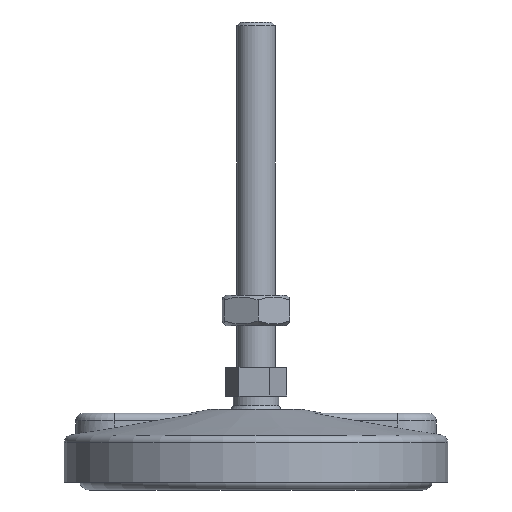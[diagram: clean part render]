
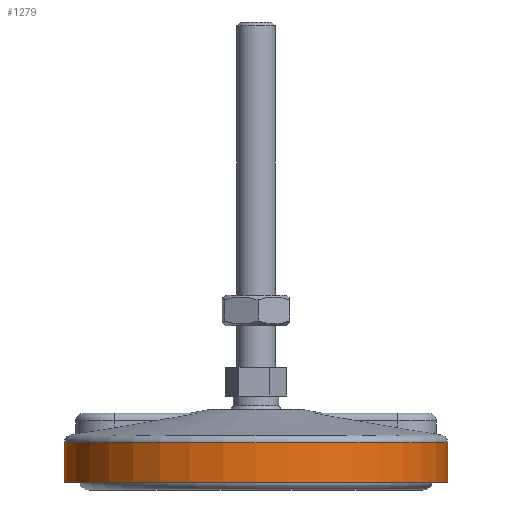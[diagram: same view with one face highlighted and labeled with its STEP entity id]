
A CAD part, front view. The second image highlights one B-rep face of the part: STEP entity #1279.
In plain terms, the highlighted cylindrical face has radius 50 mm (diameter 100 mm), a full revolution.
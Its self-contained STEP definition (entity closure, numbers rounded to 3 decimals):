
#1245=CARTESIAN_POINT('',(50.,10.335,0.0));
#1246=VERTEX_POINT('',#1245);
#1247=CARTESIAN_POINT('',(0.,10.335,0.0));
#1248=DIRECTION('',(0.0,-1.0,0.0));
#1249=DIRECTION('',(1.0,0.0,0.0));
#1250=AXIS2_PLACEMENT_3D('',#1247,#1248,#1249);
#1251=CIRCLE('',#1250,50.);
#1252=EDGE_CURVE('',#1246,#1246,#1251,.T.);
#1260=CARTESIAN_POINT('',(0.,5.167,0.0));
#1261=DIRECTION('',(0.,-1.0,0.0));
#1262=DIRECTION('',(1.0,0.0,0.0));
#1263=AXIS2_PLACEMENT_3D('',#1260,#1261,#1262);
#1264=CYLINDRICAL_SURFACE('',#1263,50.0);
#1265=CARTESIAN_POINT('',(50.0,0.0,0.0));
#1266=VERTEX_POINT('',#1265);
#1267=CARTESIAN_POINT('',(0.,0.,0.0));
#1268=DIRECTION('',(0.0,-1.0,0.0));
#1269=DIRECTION('',(1.0,0.0,0.0));
#1270=AXIS2_PLACEMENT_3D('',#1267,#1268,#1269);
#1271=CIRCLE('',#1270,50.0);
#1272=EDGE_CURVE('',#1266,#1266,#1271,.T.);
#1273=ORIENTED_EDGE('',*,*,#1272,.F.);
#1274=EDGE_LOOP('',(#1273));
#1275=FACE_OUTER_BOUND('',#1274,.T.);
#1276=ORIENTED_EDGE('',*,*,#1252,.T.);
#1277=EDGE_LOOP('',(#1276));
#1278=FACE_BOUND('',#1277,.T.);
#1279=ADVANCED_FACE('',(#1275,#1278),#1264,.T.);
